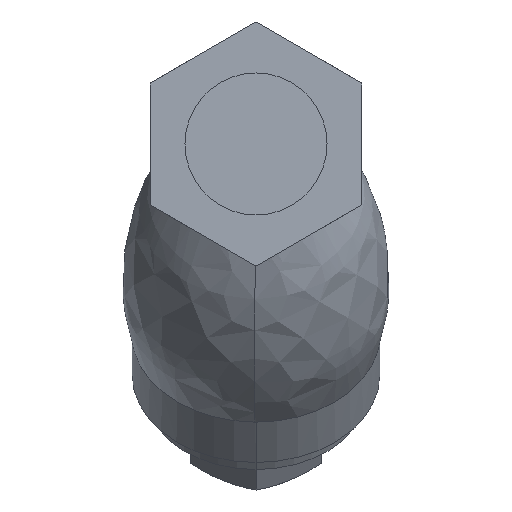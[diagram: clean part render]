
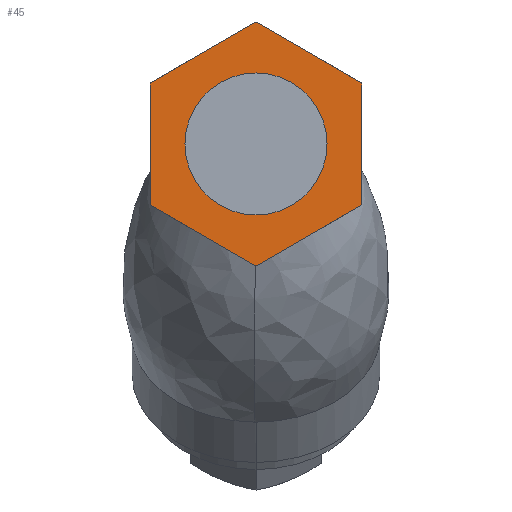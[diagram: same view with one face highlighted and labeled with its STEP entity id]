
A CAD part, left-side view. The second image highlights one B-rep face of the part: STEP entity #45.
In plain terms, the highlighted planar face has unit normal (-1, 0, 0).
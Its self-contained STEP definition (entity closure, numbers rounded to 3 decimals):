
#45=ADVANCED_FACE('',(#154,#155),#153,.T.);
#153=PLANE('',#757);
#154=FACE_OUTER_BOUND('',#758,.T.);
#155=FACE_BOUND('',#759,.T.);
#754=CARTESIAN_POINT('',(-42.,-34.8,-40.184));
#755=DIRECTION('',(-1.,0.,0.));
#756=DIRECTION('',(0.,0.,1.));
#757=AXIS2_PLACEMENT_3D('',#754,#755,#756);
#758=EDGE_LOOP('',(#1175,#1176,#1177,#1178,#1179,#1180));
#759=EDGE_LOOP('',(#1181,#1182,#1183));
#1175=ORIENTED_EDGE('',*,*,#1467,.F.);
#1176=ORIENTED_EDGE('',*,*,#1468,.F.);
#1177=ORIENTED_EDGE('',*,*,#1469,.F.);
#1178=ORIENTED_EDGE('',*,*,#1470,.F.);
#1179=ORIENTED_EDGE('',*,*,#1471,.F.);
#1180=ORIENTED_EDGE('',*,*,#1472,.F.);
#1181=ORIENTED_EDGE('',*,*,#1473,.T.);
#1182=ORIENTED_EDGE('',*,*,#1474,.T.);
#1183=ORIENTED_EDGE('',*,*,#1475,.T.);
#1467=EDGE_CURVE('',#1732,#1733,#1734,.T.);
#1468=EDGE_CURVE('',#1740,#1732,#1741,.T.);
#1469=EDGE_CURVE('',#1747,#1740,#1748,.T.);
#1470=EDGE_CURVE('',#1754,#1747,#1755,.T.);
#1471=EDGE_CURVE('',#1761,#1754,#1762,.T.);
#1472=EDGE_CURVE('',#1733,#1761,#1768,.T.);
#1473=EDGE_CURVE('',#1774,#1775,#1776,.T.);
#1474=EDGE_CURVE('',#1775,#1782,#1783,.T.);
#1475=EDGE_CURVE('',#1782,#1774,#1789,.T.);
#1732=VERTEX_POINT('',#2693);
#1733=VERTEX_POINT('',#2694);
#1734=LINE('',#2695,#2696);
#1740=VERTEX_POINT('',#2698);
#1741=LINE('',#2699,#2700);
#1747=VERTEX_POINT('',#2702);
#1748=LINE('',#2703,#2704);
#1754=VERTEX_POINT('',#2706);
#1755=LINE('',#2707,#2708);
#1761=VERTEX_POINT('',#2710);
#1762=LINE('',#2711,#2712);
#1768=LINE('',#2714,#2715);
#1774=VERTEX_POINT('',#2717);
#1775=VERTEX_POINT('',#2718);
#1776=CIRCLE('',#2722,19.5);
#1782=VERTEX_POINT('',#2723);
#1783=CIRCLE('',#2727,19.5);
#1789=CIRCLE('',#2731,19.5);
#2693=CARTESIAN_POINT('',(-42.,-29.,16.743));
#2694=CARTESIAN_POINT('',(-42.,-29.,-16.743));
#2695=CARTESIAN_POINT('',(-42.,-29.,16.743));
#2696=VECTOR('',#2697,33.486);
#2697=DIRECTION('',(0.,0.,-1.));
#2698=CARTESIAN_POINT('',(-42.,0.,33.486));
#2699=CARTESIAN_POINT('',(-42.,0.,33.486));
#2700=VECTOR('',#2701,33.486);
#2701=DIRECTION('',(0.,-0.866,-0.5));
#2702=CARTESIAN_POINT('',(-42.,29.,16.743));
#2703=CARTESIAN_POINT('',(-42.,29.,16.743));
#2704=VECTOR('',#2705,33.486);
#2705=DIRECTION('',(0.,-0.866,0.5));
#2706=CARTESIAN_POINT('',(-42.,29.,-16.743));
#2707=CARTESIAN_POINT('',(-42.,29.,-16.743));
#2708=VECTOR('',#2709,33.486);
#2709=DIRECTION('',(0.,0.,1.));
#2710=CARTESIAN_POINT('',(-42.,0.,-33.486));
#2711=CARTESIAN_POINT('',(-42.,0.,-33.486));
#2712=VECTOR('',#2713,33.486);
#2713=DIRECTION('',(0.,0.866,0.5));
#2714=CARTESIAN_POINT('',(-42.,-29.,-16.743));
#2715=VECTOR('',#2716,33.486);
#2716=DIRECTION('',(0.,0.866,-0.5));
#2717=CARTESIAN_POINT('',(-42.,19.5,0.));
#2718=CARTESIAN_POINT('',(-42.,-0.002,19.5));
#2719=CARTESIAN_POINT('',(-42.,0.,0.));
#2720=DIRECTION('',(1.,0.,0.));
#2721=DIRECTION('',(0.,1.,0.));
#2722=AXIS2_PLACEMENT_3D('',#2719,#2720,#2721);
#2723=CARTESIAN_POINT('',(-42.,0.,-19.5));
#2724=CARTESIAN_POINT('',(-42.,0.,0.));
#2725=DIRECTION('',(1.,0.,0.));
#2726=DIRECTION('',(0.,1.,0.));
#2727=AXIS2_PLACEMENT_3D('',#2724,#2725,#2726);
#2728=CARTESIAN_POINT('',(-42.,0.,0.));
#2729=DIRECTION('',(1.,0.,0.));
#2730=DIRECTION('',(0.,1.,0.));
#2731=AXIS2_PLACEMENT_3D('',#2728,#2729,#2730);
